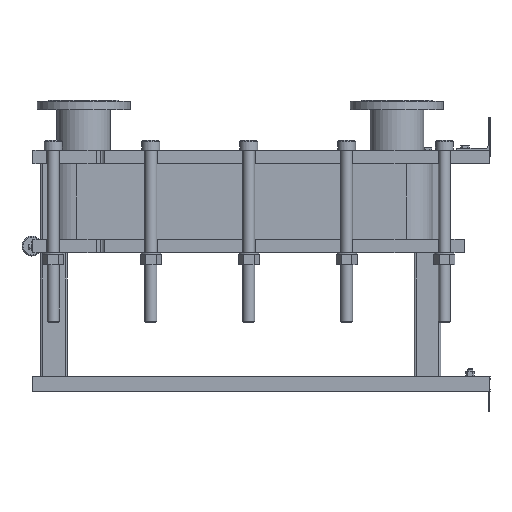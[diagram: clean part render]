
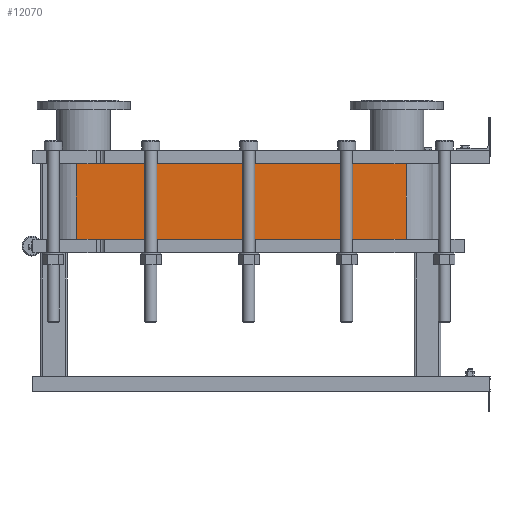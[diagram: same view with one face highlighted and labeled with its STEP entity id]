
A CAD part, left-side view. The second image highlights one B-rep face of the part: STEP entity #12070.
In plain terms, the highlighted planar face has unit normal (-1, 0, 0).
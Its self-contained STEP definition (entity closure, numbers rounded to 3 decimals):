
#1064=LINE('',#21140,#2164);
#1065=LINE('',#21144,#2165);
#1066=LINE('',#21146,#2166);
#1067=LINE('',#21147,#2167);
#2164=VECTOR('',#15790,10.);
#2165=VECTOR('',#15795,10.);
#2166=VECTOR('',#15796,10.);
#2167=VECTOR('',#15797,10.);
#3304=FACE_OUTER_BOUND('',#4091,.T.);
#4091=EDGE_LOOP('',(#9793,#9794,#9795,#9796));
#5677=VERTEX_POINT('',#21137);
#5678=VERTEX_POINT('',#21139);
#5679=VERTEX_POINT('',#21143);
#5680=VERTEX_POINT('',#21145);
#7118=EDGE_CURVE('',#5678,#5677,#1064,.T.);
#7120=EDGE_CURVE('',#5677,#5679,#1065,.T.);
#7121=EDGE_CURVE('',#5680,#5679,#1066,.T.);
#7122=EDGE_CURVE('',#5680,#5678,#1067,.T.);
#9793=ORIENTED_EDGE('',*,*,#7120,.T.);
#9794=ORIENTED_EDGE('',*,*,#7121,.F.);
#9795=ORIENTED_EDGE('',*,*,#7122,.T.);
#9796=ORIENTED_EDGE('',*,*,#7118,.T.);
#11441=PLANE('',#13191);
#12070=ADVANCED_FACE('',(#3304),#11441,.T.);
#13191=AXIS2_PLACEMENT_3D('',#21142,#15793,#15794);
#15790=DIRECTION('',(0.,0.,-1.));
#15793=DIRECTION('center_axis',(-1.,0.,0.));
#15794=DIRECTION('ref_axis',(0.,1.,0.));
#15795=DIRECTION('',(0.,-1.,0.));
#15796=DIRECTION('',(0.,0.,-1.));
#15797=DIRECTION('',(0.,1.,0.));
#21137=CARTESIAN_POINT('',(-248.152,1243.818,-227.7));
#21139=CARTESIAN_POINT('',(-248.152,1243.818,0.));
#21140=CARTESIAN_POINT('',(-248.152,1243.818,0.));
#21142=CARTESIAN_POINT('Origin',(-248.152,251.818,0.));
#21143=CARTESIAN_POINT('',(-248.152,251.818,-227.7));
#21144=CARTESIAN_POINT('',(-248.152,499.818,-227.7));
#21145=CARTESIAN_POINT('',(-248.152,251.818,0.));
#21146=CARTESIAN_POINT('',(-248.152,251.818,0.));
#21147=CARTESIAN_POINT('',(-248.152,251.818,0.));
